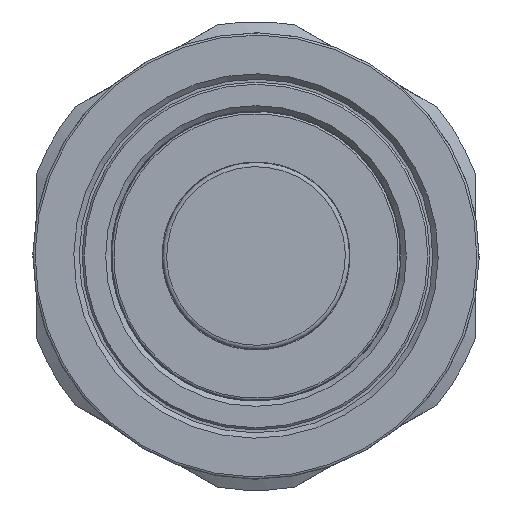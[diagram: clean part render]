
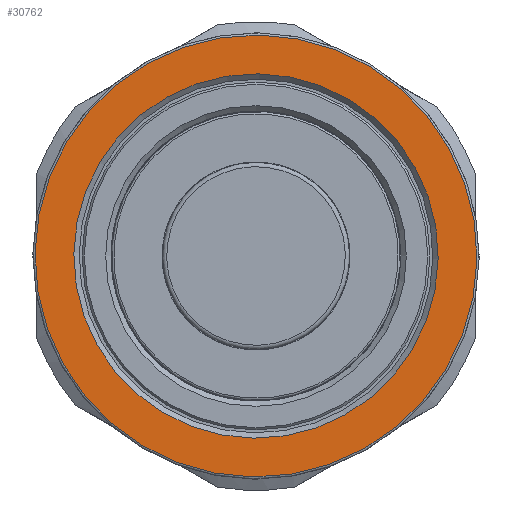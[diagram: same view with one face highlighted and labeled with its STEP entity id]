
A CAD part, front view. The second image highlights one B-rep face of the part: STEP entity #30762.
In plain terms, the highlighted planar face has unit normal (0, -1, 0).
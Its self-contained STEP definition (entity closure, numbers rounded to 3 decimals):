
#3332=FACE_BOUND('',#6977,.T.);
#3745=PLANE('',#31902);
#5310=FACE_OUTER_BOUND('',#6976,.T.);
#6976=EDGE_LOOP('',(#27429));
#6977=EDGE_LOOP('',(#27430));
#11056=CIRCLE('',#31898,17.025);
#11059=CIRCLE('',#31903,20.65);
#14037=VERTEX_POINT('',#67759);
#14040=VERTEX_POINT('',#67769);
#18503=EDGE_CURVE('',#14037,#14037,#11056,.T.);
#18508=EDGE_CURVE('',#14040,#14040,#11059,.T.);
#27429=ORIENTED_EDGE('',*,*,#18508,.F.);
#27430=ORIENTED_EDGE('',*,*,#18503,.F.);
#30762=ADVANCED_FACE('',(#5310,#3332),#3745,.T.);
#31898=AXIS2_PLACEMENT_3D('',#67760,#35872,#35873);
#31902=AXIS2_PLACEMENT_3D('',#67768,#35882,#35883);
#31903=AXIS2_PLACEMENT_3D('',#67770,#35884,#35885);
#35872=DIRECTION('center_axis',(0.,-1.,0.));
#35873=DIRECTION('ref_axis',(1.,0.,-0.014));
#35882=DIRECTION('center_axis',(0.,-1.,0.));
#35883=DIRECTION('ref_axis',(0.014,0.,1.));
#35884=DIRECTION('center_axis',(0.,1.,0.));
#35885=DIRECTION('ref_axis',(1.,0.,-0.014));
#67759=CARTESIAN_POINT('',(-17.023,-25.185,0.24));
#67760=CARTESIAN_POINT('Origin',(0.,-25.185,
0.));
#67768=CARTESIAN_POINT('Origin',(-20.848,-25.185,0.294));
#67769=CARTESIAN_POINT('',(0.291,-25.185,20.648));
#67770=CARTESIAN_POINT('Origin',(0.,-25.185,
0.));
